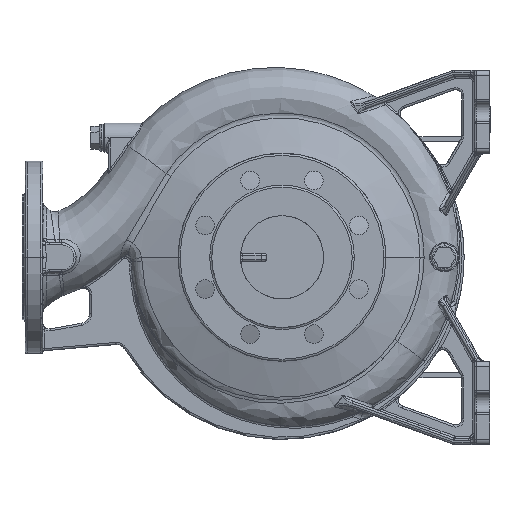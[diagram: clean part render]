
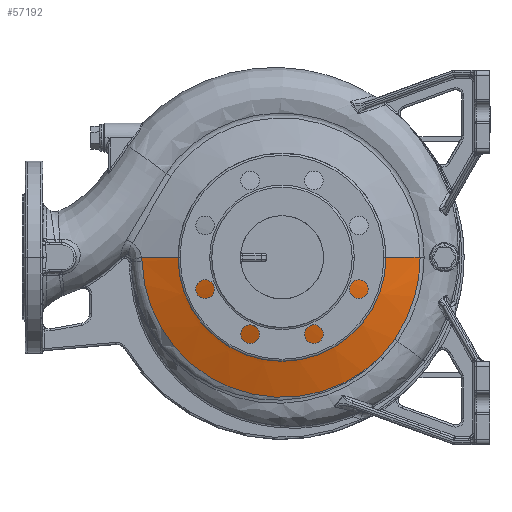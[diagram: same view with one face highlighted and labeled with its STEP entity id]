
A CAD part, front view. The second image highlights one B-rep face of the part: STEP entity #57192.
In plain terms, the highlighted conical face has half-angle 72 degrees and reference radius 103.164 mm.
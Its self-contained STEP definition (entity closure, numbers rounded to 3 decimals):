
#36188=CARTESIAN_POINT('',(-78.81,-108.317,
24.222));
#36189=CARTESIAN_POINT('',(-74.177,-111.494,
24.272));
#36190=CARTESIAN_POINT('',(-64.543,-117.285,
24.364));
#36191=CARTESIAN_POINT('',(-49.126,-124.188,
24.467));
#36192=CARTESIAN_POINT('',(-33.093,-129.161,
24.537));
#36193=CARTESIAN_POINT('',(-16.608,-132.145,
24.585));
#36194=CARTESIAN_POINT('',(-5.528,-132.783,
24.602));
#36195=CARTESIAN_POINT('',(0.,-132.77,
24.606));
#36200=CARTESIAN_POINT('',(-95.541,-94.861,
24.));
#36201=CARTESIAN_POINT('',(-92.923,-97.331,
24.038));
#36202=CARTESIAN_POINT('',(-87.505,-102.052,
24.113));
#36203=CARTESIAN_POINT('',(-81.756,-106.311,
24.185));
#36204=CARTESIAN_POINT('',(-78.81,-108.317,
24.222));
#36209=CARTESIAN_POINT('',(0.,0.,24.));
#36210=DIRECTION('',(0.,0.,-1.));
#36211=DIRECTION('',(-0.71,-0.705,0.));
#36212=AXIS2_PLACEMENT_3D('',#36209,#36210,#36211);
#36217=CARTESIAN_POINT('',(-3.977,134.576,
24.));
#36218=CARTESIAN_POINT('',(-3.294,134.597,
24.));
#36219=CARTESIAN_POINT('',(-1.949,134.691,
23.979));
#36220=CARTESIAN_POINT('',(-0.644,134.886,
23.919));
#36221=CARTESIAN_POINT('',(0.,135.009,
23.879));
#36226=DIRECTION('',(0.,-0.951,0.309));
#36227=VECTOR('',#36226,66.966);
#36228=CARTESIAN_POINT('',(0.,135.009,
23.879));
#36229=LINE('',#36228,#36227);
#36233=CARTESIAN_POINT('',(0.,0.,44.573));
#36234=DIRECTION('',(0.,0.,-1.));
#36235=DIRECTION('',(0.,-1.,0.));
#36236=AXIS2_PLACEMENT_3D('',#36233,#36234,#36235);
#36241=DIRECTION('',(0.,0.951,0.309));
#36242=VECTOR('',#36241,64.613);
#36243=CARTESIAN_POINT('',(0.,-132.77,
24.606));
#36244=LINE('',#36243,#36242);
#36248=CARTESIAN_POINT('',(0.,-132.77,
24.606));
#39711=CARTESIAN_POINT('',(0.,-71.32,
44.573));
#39712=CARTESIAN_POINT('',(0.,71.32,44.573));
#39713=VERTEX_POINT('',#39711);
#39714=VERTEX_POINT('',#39712);
#39715=CARTESIAN_POINT('',(0.,135.009,
23.879));
#39716=VERTEX_POINT('',#39715);
#39719=VERTEX_POINT('',#36248);
#39724=VERTEX_POINT('',#36188);
#40044=VERTEX_POINT('',#36200);
#40049=CARTESIAN_POINT('',(-3.977,134.577,
24.));
#40050=VERTEX_POINT('',#40049);
#57175=CARTESIAN_POINT('',(0.,0.,34.226));
#57176=DIRECTION('',(0.,0.,-1.));
#57177=DIRECTION('',(0.,-1.,0.));
#57178=AXIS2_PLACEMENT_3D('',#57175,#57176,#57177);
#57179=CONICAL_SURFACE('',#57178,103.164,72.);
#57180=ORIENTED_EDGE('',*,*,#45304,.F.);
#57181=ORIENTED_EDGE('',*,*,#45336,.F.);
#57182=ORIENTED_EDGE('',*,*,#57053,.T.);
#57183=ORIENTED_EDGE('',*,*,#57169,.T.);
#57185=ORIENTED_EDGE('',*,*,#57184,.T.);
#57187=ORIENTED_EDGE('',*,*,#57186,.F.);
#57189=ORIENTED_EDGE('',*,*,#57188,.F.);
#57190=EDGE_LOOP('',(#57180,#57181,#57182,#57183,#57185,#57187,#57189));
#57191=FACE_OUTER_BOUND('',#57190,.F.);
#36196=B_SPLINE_CURVE_WITH_KNOTS('',3,(#36188,#36189,#36190,#36191,#36192,
#36193,#36194,#36195),.UNSPECIFIED.,.F.,.F.,(4,1,1,1,1,4),(0.,0.2,0.4,
0.6,0.8,1.),.UNSPECIFIED.);
#36205=B_SPLINE_CURVE_WITH_KNOTS('',3,(#36200,#36201,#36202,#36203,#36204),
.UNSPECIFIED.,.F.,.F.,(4,1,4),(0.,0.5,1.),.UNSPECIFIED.);
#36213=CIRCLE('',#36212,134.635);
#36222=B_SPLINE_CURVE_WITH_KNOTS('',3,(#36217,#36218,#36219,#36220,#36221),
.UNSPECIFIED.,.F.,.F.,(4,1,4),(0.,0.5,1.),.UNSPECIFIED.);
#36237=CIRCLE('',#36236,71.32);
#45304=EDGE_CURVE('',#39724,#39719,#36196,.T.);
#45336=EDGE_CURVE('',#40044,#39724,#36205,.T.);
#57053=EDGE_CURVE('',#40044,#40050,#36213,.T.);
#57169=EDGE_CURVE('',#40050,#39716,#36222,.T.);
#57184=EDGE_CURVE('',#39716,#39714,#36229,.T.);
#57186=EDGE_CURVE('',#39713,#39714,#36237,.T.);
#57188=EDGE_CURVE('',#39719,#39713,#36244,.T.);
#57192=ADVANCED_FACE('',(#57191),#57179,.T.);
